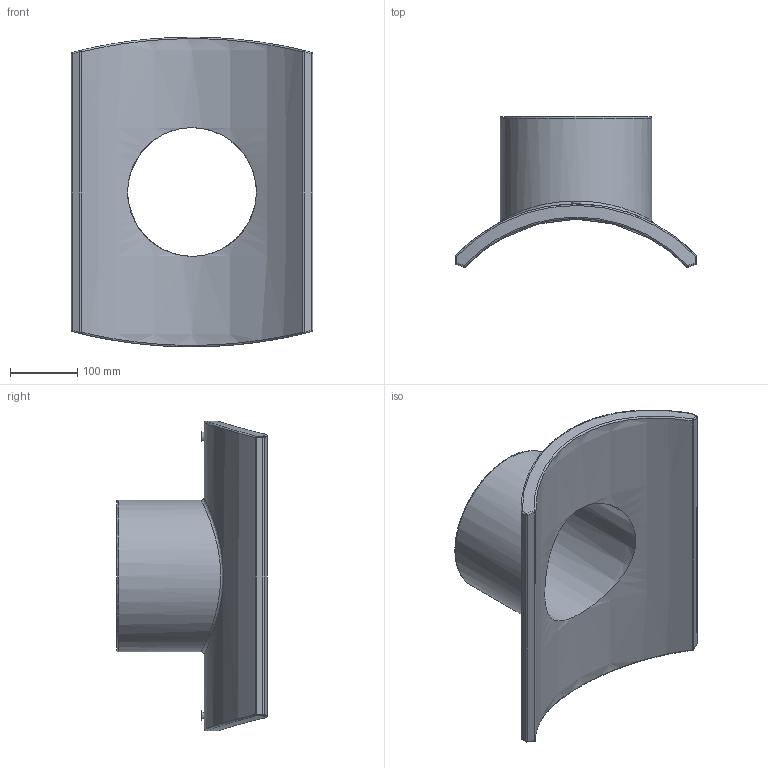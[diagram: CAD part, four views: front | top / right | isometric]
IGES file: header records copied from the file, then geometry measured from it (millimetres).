
Global section: file name: 4758W4450225.ipt; native system: Autodesk Inventor 2015; preprocessor: unknown; author: KIM; date: 20180416.104040; units: millimetre
Bounding box: 359 x 223.71 x 459.99 mm (x, y, z)
Volume: 4759357.4 mm3; surface area: 520235.9 mm2
Topology: 2 solids, 2 shells, 56 faces, 108 edges, 62 vertices
Faces by surface type: cylinder 16, sphere 12, plane 11, bspline 9, revolution 6, cone 2
Full cylindrical faces by diameter (mm): 4 x2, 225 x1
